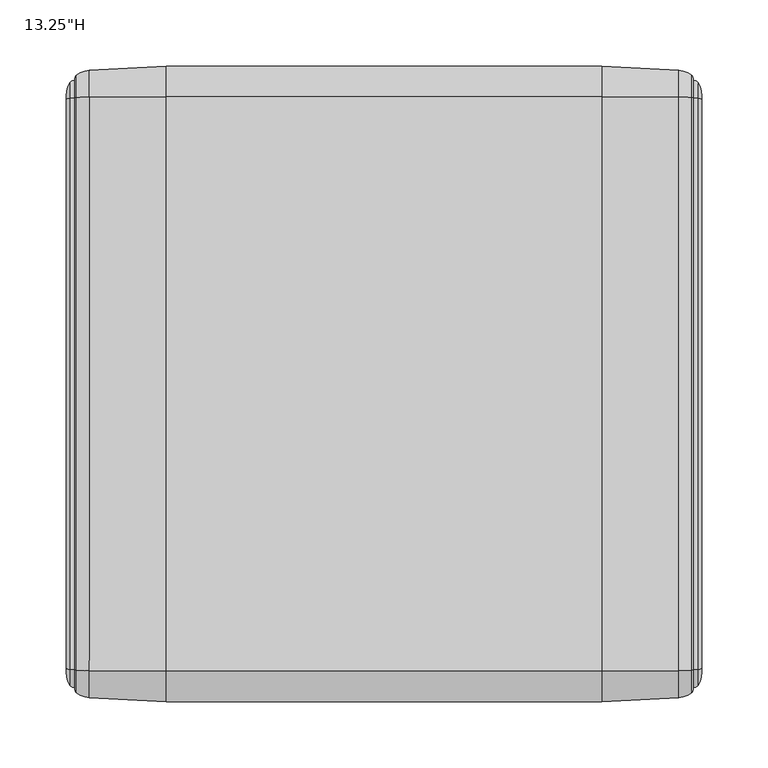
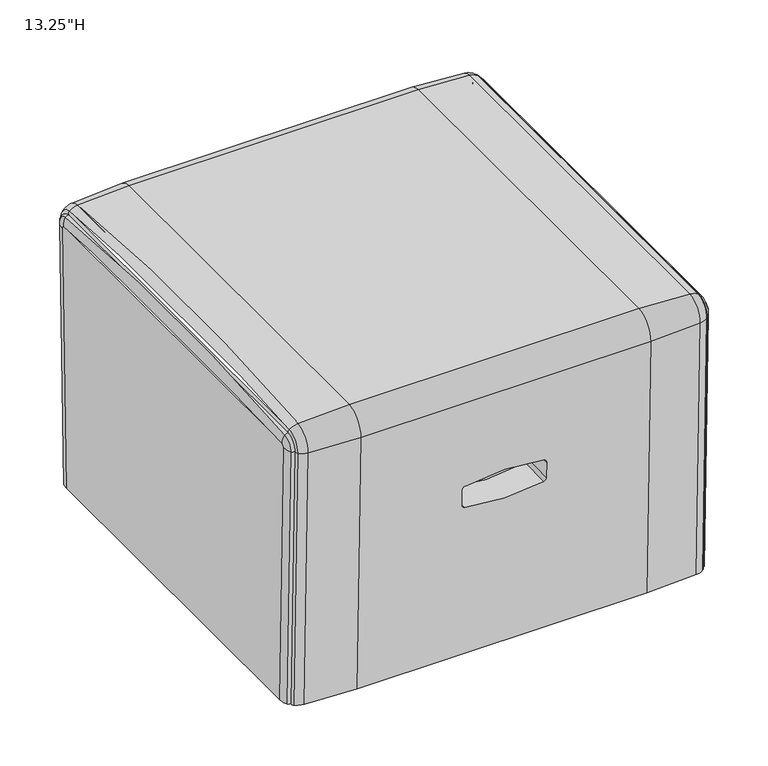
"""IFC4 building model written with IfcOpenShell, lengths in millimetres: furniture geometry."""

from ifc_helpers import new_model, si_unit, point, frame, origin, place, context, project, spatial, polyline, circle_curve, ellipse_curve, trimmed, source, transform, mapped, element, save
from ifc_brep_helpers import plane_surface, cylinder_surface, revolved_surface, advanced_brep


def furniture_3583faa9(model_context):
    return source(origin(), model_context, "Body", "AdvancedBrep", [
        advanced_brep(
        [(163.8587008, -239.1073129, 323.321187), (-163.8587008, -239.1073129, 323.321187), (-163.8587008, -231.2514802, 17.2390594), (163.8587008, -231.2514802, 17.2390594), (44.5276348, -236.492921, 221.4581939), (47.7093439, -236.3925517, 217.5475643), (47.7093439, -235.9314742, 199.5828757), (44.5276348, -235.8311049, 195.6722461), (-44.5276348, -235.8311049, 195.6722461), (-47.7093439, -235.9314742, 199.5828757), (-47.7093439, -236.3925517, 217.5475643), (-44.5276348, -236.492921, 221.4581939), (-222.0087486, -236.1553847, 323.3969505), (-222.0087486, -228.2976074, 17.2390594), (163.8587008, -216.2802814, 349.0833957), (-163.8587008, -216.2802814, 349.0833957), (-222.0087486, -216.0001507, 346.1438128), (163.8587008, 216.2802814, 349.0833957), (-163.8587008, 216.2802814, 349.0833957), (-222.0087486, 216.0001507, 346.1438128), (163.8587008, 239.1073129, 323.321187), (-163.8587008, 239.1073129, 323.321187), (-222.0087486, 236.1553847, 323.3969505), (163.8587008, 231.2514802, 17.2390594), (-163.8587008, 231.2514802, 17.2390594), (-222.0087486, 228.2976074, 17.2390594), (-236.5968433, -226.6966313, 323.6397167), (-239.1289801, -217.2096187, 323.8832082), (-239.1289801, -209.3393613, 17.2390594), (-236.5968433, -218.8326232, 17.2390594), (-236.5968433, -215.1025384, 336.7246174), (-239.1289801, -214.2022444, 327.2772809), (-236.5968433, 215.1025384, 336.7246174), (-239.1289801, 214.2022444, 327.2772809), (-236.5968433, 226.6966313, 323.6397167), (-239.1289801, 217.2096187, 323.8832082), (-236.5968433, 218.8326232, 17.2390594), (-239.1289801, 209.3393613, 17.2390594), (44.5276348, -200.9843019, 222.3695498), (-44.5276348, -200.9843019, 222.3695498), (-47.7093439, -200.8839326, 218.4589203), (-47.7093439, -200.4228551, 200.4942316), (-44.5276348, -200.3224858, 196.5836021), (44.5276348, -200.3224858, 196.5836021), (47.7093439, -200.4228551, 200.4942316), (47.7093439, -200.8839326, 218.4589203), (-231.5440406, -232.4182518, 323.4928669), (-231.5440406, -224.5580128, 17.2390594), (-231.7344658, -227.5040751, 323.618993), (-231.7344658, -219.6405929, 17.2388231), (239.1289801, -217.2096187, 323.8832082), (236.5968433, -226.6966313, 323.6397167), (236.5968433, -218.8326232, 17.2390594), (239.1289801, -209.3393613, 17.2390594), (231.7425975, -227.494867, 323.6192294), (231.7425975, -219.6313909, 17.2392958), (231.5440406, -232.4182518, 323.4928669), (231.5440406, -224.5580128, 17.2390594), (222.0087486, -236.1553847, 323.3969505), (222.0087486, -228.2976074, 17.2390594), (-231.5440406, -215.645506, 342.4223092), (-231.7344658, -215.1791628, 337.5286843), (239.1289801, -214.2022444, 327.2772809), (236.5968433, -215.1025384, 336.7246174), (231.7425975, -215.178289, 337.5195148), (231.5440406, -215.645506, 342.4223092), (222.0087486, -216.0001507, 346.1438128), (-231.5440406, 215.645506, 342.4223092), (-231.7344658, 215.1791628, 337.5286843), (239.1289801, 214.2022444, 327.2772809), (236.5968433, 215.1025384, 336.7246174), (231.7425975, 215.178289, 337.5195148), (231.5440406, 215.645506, 342.4223092), (222.0087486, 216.0001507, 346.1438128), (-231.5440406, 232.4182518, 323.4928669), (-231.7344658, 227.5040751, 323.618993), (239.1289801, 217.2096187, 323.8832082), (236.5968433, 226.6966313, 323.6397167), (231.7425975, 227.494867, 323.6192294), (231.5440406, 232.4182518, 323.4928669), (222.0087486, 236.1553847, 323.3969505), (-231.5440406, 224.5580128, 17.2390594), (-231.7344628, 219.6405963, 17.2390594), (239.1289801, 209.3393613, 17.2390594), (236.5968433, 218.8326232, 17.2390594), (231.7426005, 219.6313875, 17.2390594), (231.5440406, 224.5580128, 17.2390594), (222.0087486, 228.2976074, 17.2390594)],
        [
            (0, 1),
            (1, 2),
            (2, 3),
            (3, 0),
            (4, 5, circle_curve(frame((43.7136345, -236.3925517, 217.5475643), z_axis=(0.0, 0.999670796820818, 0.02565731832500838), x_axis=(0.0, 0.02565731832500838, -0.999670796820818)), 3.9957094)),
            (5, 6),
            (6, 7, circle_curve(frame((43.7136345, -235.9314742, 199.5828757), z_axis=(0.0, 0.999670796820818, 0.02565731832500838), x_axis=(0.0, 0.02565731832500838, -0.999670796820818)), 3.9957094)),
            (7, 8, circle_curve(frame((0.0, -241.3215305, 409.5924247), z_axis=(0.0, 0.999670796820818, 0.02565731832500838), x_axis=(0.0, 0.02565731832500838, -0.999670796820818)), 218.5742387)),
            (8, 9, circle_curve(frame((-43.7136345, -235.9314742, 199.5828757), z_axis=(0.0, 0.999670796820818, 0.02565731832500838), x_axis=(0.0, 0.02565731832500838, -0.999670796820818)), 3.9957094)),
            (9, 10),
            (10, 11, circle_curve(frame((-43.7136345, -236.3925517, 217.5475643), z_axis=(0.0, 0.999670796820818, 0.02565731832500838), x_axis=(0.0, 0.02565731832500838, -0.999670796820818)), 3.9957094)),
            (11, 4, circle_curve(frame((0.0, -231.0024954, 7.5380153), z_axis=(0.0, 0.999670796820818, 0.02565731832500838), x_axis=(0.0, 0.02565731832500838, -0.999670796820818)), 218.5742387)),
            (1, 12, circle_curve(frame((-163.8587008, 334.7406374, 338.0494352), z_axis=(0.0, 0.025657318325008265, -0.999670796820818), x_axis=(0.0, -0.999670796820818, -0.025657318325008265)), 574.0369251)),
            (12, 13),
            (13, 2, ellipse_curve(frame((-163.8587008, 342.974482, 17.2390594), z_axis=(0.0, 0.0, 1.0), x_axis=(0.0, 0.9999999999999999, 0.0)), 574.2259621, 574.0369251)),
            (0, 14, circle_curve(frame((163.8587008, -213.8869293, 323.9684875), z_axis=(-1.0, 0.0, 0.0), x_axis=(0.0, -0.9996707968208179, -0.025657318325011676)), 25.2286889)),
            (14, 15),
            (15, 1, circle_curve(frame((-163.8587008, -213.8869293, 323.9684875), z_axis=(1.0, 0.0, 0.0), x_axis=(0.0, -0.9996707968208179, -0.025657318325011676)), 25.2286889)),
            (15, 16, circle_curve(frame((-163.8587008, -161.8235296, -222.3646366), z_axis=(0.0, -0.9954900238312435, -0.09486628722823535), x_axis=(0.0, -0.09486628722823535, 0.9954900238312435)), 574.0369251)),
            (16, 12, circle_curve(frame((-222.0087486, -213.8869293, 323.9684875), z_axis=(1.0, 0.0, 0.0), x_axis=(0.0, -0.9996707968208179, -0.025657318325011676)), 22.2757886)),
            (14, 17, circle_curve(frame((163.8587008, 0.0, -1920.477992), z_axis=(-1.0, 0.0, 0.0), x_axis=(0.0, -0.09486628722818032, 0.9954900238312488)), 2279.8434272)),
            (17, 18),
            (18, 15, circle_curve(frame((-163.8587008, 0.0, -1920.477992), z_axis=(1.0, 0.0, 0.0), x_axis=(0.0, -0.09486628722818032, 0.9954900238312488)), 2279.8434272)),
            (18, 19, circle_curve(frame((-163.8587008, 161.8235296, -222.3646366), z_axis=(0.0, -0.9954900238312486, 0.09486628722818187), x_axis=(0.0, 0.09486628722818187, 0.9954900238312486)), 574.0369251)),
            (19, 16, circle_curve(frame((-222.0087486, 0.0, -1920.477992), z_axis=(1.0, 0.0, 0.0), x_axis=(0.0, -0.09486628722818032, 0.9954900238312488)), 2276.8905268)),
            (17, 20, circle_curve(frame((163.8587008, 213.8869293, 323.9684875), z_axis=(-1.0, 0.0, 0.0), x_axis=(0.0, 0.09486628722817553, 0.9954900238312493)), 25.2286889)),
            (20, 21),
            (21, 18, circle_curve(frame((-163.8587008, 213.8869293, 323.9684875), z_axis=(1.0, 0.0, 0.0), x_axis=(0.0, 0.09486628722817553, 0.9954900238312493)), 25.2286889)),
            (21, 22, circle_curve(frame((-163.8587008, -334.7406374, 338.0494352), z_axis=(0.0, 0.025657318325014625, 0.9996707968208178), x_axis=(0.0, 0.9996707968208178, -0.025657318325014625)), 574.0369251)),
            (22, 19, circle_curve(frame((-222.0087486, 213.8869293, 323.9684875), z_axis=(1.0, 0.0, 0.0), x_axis=(0.0, 0.09486628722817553, 0.9954900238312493)), 22.2757886)),
            (20, 23),
            (23, 24),
            (24, 21),
            (24, 25, ellipse_curve(frame((-163.8587008, -342.974482, 17.2390594), z_axis=(0.0, 0.0, 1.0), x_axis=(0.0, 1.0, 0.0)), 574.2259621, 574.0369251)),
            (25, 22),
            (26, 27, circle_curve(frame((-220.0789801, -217.2096187, 323.8832082), z_axis=(0.0, 0.025657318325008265, -0.999670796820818), x_axis=(0.0, -0.999670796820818, -0.025657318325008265)), 19.05)),
            (27, 28),
            (28, 29, ellipse_curve(frame((-220.0789801, -209.3393613, 17.2390594), z_axis=(0.0, 0.0, 1.0), x_axis=(0.0, 0.9999999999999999, 0.0)), 19.0562734, 19.05)),
            (29, 26),
            (26, 30, circle_curve(frame((-236.5968433, -213.8869293, 323.9684875), z_axis=(-1.0, 0.0, 0.0), x_axis=(0.0, -0.9996707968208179, -0.025657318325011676)), 12.8139203)),
            (30, 31, circle_curve(frame((-220.0789801, -214.2022444, 327.2772809), z_axis=(0.0, -0.9954900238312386, -0.09486628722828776), x_axis=(0.0, -0.09486628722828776, 0.9954900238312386)), 19.05)),
            (31, 27, circle_curve(frame((-239.1289801, -213.8869293, 323.9684875), z_axis=(1.0, 0.0, 0.0), x_axis=(0.0, -0.9996707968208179, -0.025657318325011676)), 3.3237836)),
            (30, 32, circle_curve(frame((-236.5968433, 0.0, -1920.477992), z_axis=(-1.0, 0.0, 0.0), x_axis=(0.0, -0.09486628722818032, 0.9954900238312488)), 2267.4286585)),
            (32, 33, circle_curve(frame((-220.0789801, 214.2022444, 327.2772809), z_axis=(0.0, -0.9954900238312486, 0.0948662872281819), x_axis=(0.0, 0.0948662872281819, 0.9954900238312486)), 19.05)),
            (33, 31, circle_curve(frame((-239.1289801, 0.0, -1920.477992), z_axis=(1.0, 0.0, 0.0), x_axis=(0.0, -0.09486628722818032, 0.9954900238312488)), 2257.9385218)),
            (32, 34, circle_curve(frame((-236.5968433, 213.8869293, 323.9684875), z_axis=(-1.0, 0.0, 0.0), x_axis=(0.0, 0.09486628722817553, 0.9954900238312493)), 12.8139203)),
            (34, 35, circle_curve(frame((-220.0789801, 217.2096187, 323.8832082), z_axis=(0.0, 0.025657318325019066, 0.9996707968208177), x_axis=(0.0, 0.9996707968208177, -0.025657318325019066)), 19.05)),
            (35, 33, circle_curve(frame((-239.1289801, 213.8869293, 323.9684875), z_axis=(1.0, 0.0, 0.0), x_axis=(0.0, 0.09486628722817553, 0.9954900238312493)), 3.3237836)),
            (34, 36),
            (36, 37, ellipse_curve(frame((-220.0789801, 209.3393613, 17.2390594), z_axis=(0.0, 0.0, 1.0), x_axis=(0.0, 1.0, 0.0)), 19.0562734, 19.05)),
            (37, 35),
            (38, 39, circle_curve(frame((0.0, -195.4938763, 8.4493712), z_axis=(0.0, -0.999670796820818, -0.02565731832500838), x_axis=(0.0, 0.02565731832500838, -0.999670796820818)), 218.5742387)),
            (39, 40, circle_curve(frame((-43.7136345, -200.8839326, 218.4589203), z_axis=(0.0, -0.999670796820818, -0.02565731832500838), x_axis=(0.0, 0.02565731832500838, -0.999670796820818)), 3.9957094)),
            (40, 41),
            (41, 42, circle_curve(frame((-43.7136345, -200.4228551, 200.4942316), z_axis=(0.0, -0.999670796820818, -0.02565731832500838), x_axis=(0.0, 0.02565731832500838, -0.999670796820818)), 3.9957094)),
            (42, 43, circle_curve(frame((0.0, -205.8129114, 410.5037807), z_axis=(0.0, -0.999670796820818, -0.02565731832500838), x_axis=(0.0, 0.02565731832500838, -0.999670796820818)), 218.5742387)),
            (43, 44, circle_curve(frame((43.7136345, -200.4228551, 200.4942316), z_axis=(0.0, -0.999670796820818, -0.02565731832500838), x_axis=(0.0, 0.02565731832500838, -0.999670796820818)), 3.9957094)),
            (44, 45),
            (45, 38, circle_curve(frame((43.7136345, -200.8839326, 218.4589203), z_axis=(0.0, -0.999670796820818, -0.02565731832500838), x_axis=(0.0, 0.02565731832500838, -0.999670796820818)), 3.9957094)),
            (45, 5),
            (4, 38),
            (44, 6),
            (43, 7),
            (42, 8),
            (41, 9),
            (40, 10),
            (39, 11),
            (12, 46, circle_curve(frame((-220.0789801, -217.2096187, 323.8832082), z_axis=(0.0, 0.025657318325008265, -0.999670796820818), x_axis=(0.0, -0.999670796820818, -0.025657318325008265)), 19.05)),
            (46, 47),
            (47, 13, ellipse_curve(frame((-220.0789801, -209.3393613, 17.2390594), z_axis=(0.0, 0.0, 1.0), x_axis=(0.0, 0.9999999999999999, 0.0)), 19.0562734, 19.05)),
            (46, 48, circle_curve(frame((-229.6331972, -229.8834796, 323.5579238), z_axis=(0.0, 0.025657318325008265, -0.999670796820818), x_axis=(0.0, -0.999670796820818, -0.025657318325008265)), 3.175)),
            (48, 49),
            (49, 47, ellipse_curve(frame((-229.6331972, -222.0215708, 17.2390594), z_axis=(0.0, 0.0, 1.0), x_axis=(0.0, 0.9999999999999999, 0.0)), 3.1760456, 3.175)),
            (48, 26, circle_curve(frame((-233.8438661, -225.1154625, 323.6802986), z_axis=(0.0, 0.025657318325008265, -0.999670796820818), x_axis=(0.0, -0.999670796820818, -0.025657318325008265)), 3.175)),
            (29, 49, ellipse_curve(frame((-233.8438661, -217.2504129, 17.2390594), z_axis=(0.0, 0.0, 1.0), x_axis=(0.0, 0.9999999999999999, 0.0)), 3.1760456, 3.175)),
            (50, 51, circle_curve(frame((220.0789801, -217.2096187, 323.8832082), z_axis=(0.0, 0.025657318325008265, -0.999670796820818), x_axis=(0.0, -0.999670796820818, -0.025657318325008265)), 19.05)),
            (51, 52),
            (52, 53, ellipse_curve(frame((220.0789801, -209.3393613, 17.2390594), z_axis=(0.0, 0.0, 1.0), x_axis=(0.0, 0.9999999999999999, 0.0)), 19.0562734, 19.05)),
            (53, 50),
            (51, 54, circle_curve(frame((233.8438661, -225.1154625, 323.6802986), z_axis=(0.0, 0.025657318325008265, -0.999670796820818), x_axis=(0.0, -0.999670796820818, -0.025657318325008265)), 3.175)),
            (54, 55),
            (55, 52, ellipse_curve(frame((233.8438661, -217.2504129, 17.2390594), z_axis=(0.0, 0.0, 1.0), x_axis=(0.0, 0.9999999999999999, 0.0)), 3.1760456, 3.175)),
            (54, 56, circle_curve(frame((229.6331972, -229.8834796, 323.5579238), z_axis=(0.0, 0.025657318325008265, -0.999670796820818), x_axis=(0.0, -0.999670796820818, -0.025657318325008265)), 3.175)),
            (56, 57),
            (57, 55, ellipse_curve(frame((229.6331972, -222.0215708, 17.2390594), z_axis=(0.0, 0.0, 1.0), x_axis=(0.0, 0.9999999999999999, 0.0)), 3.1760456, 3.175)),
            (56, 58, circle_curve(frame((220.0789801, -217.2096187, 323.8832082), z_axis=(0.0, 0.025657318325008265, -0.999670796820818), x_axis=(0.0, -0.999670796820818, -0.025657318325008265)), 19.05)),
            (58, 59),
            (59, 57, ellipse_curve(frame((220.0789801, -209.3393613, 17.2390594), z_axis=(0.0, 0.0, 1.0), x_axis=(0.0, 0.9999999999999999, 0.0)), 19.0562734, 19.05)),
            (58, 0, circle_curve(frame((163.8587008, 334.7406374, 338.0494352), z_axis=(0.0, 0.025657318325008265, -0.999670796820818), x_axis=(0.0, -0.999670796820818, -0.025657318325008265)), 574.0369251)),
            (3, 59, ellipse_curve(frame((163.8587008, 342.974482, 17.2390594), z_axis=(0.0, 0.0, 1.0), x_axis=(0.0, 0.9999999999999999, 0.0)), 574.2259621, 574.0369251)),
            (16, 60, circle_curve(frame((-220.0789801, -214.2022444, 327.2772809), z_axis=(0.0, -0.9954900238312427, -0.09486628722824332), x_axis=(0.0, -0.09486628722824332, 0.9954900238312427)), 19.05)),
            (60, 46, circle_curve(frame((-231.5440406, -213.8869293, 323.9684875), z_axis=(1.0, 0.0, 0.0), x_axis=(0.0, -0.9996707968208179, -0.025657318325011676)), 18.537425)),
            (60, 61, circle_curve(frame((-229.6331972, -215.4049624, 339.8981378), z_axis=(0.0, -0.9954900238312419, -0.09486628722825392), x_axis=(0.0, -0.09486628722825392, 0.9954900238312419)), 3.175)),
            (61, 48, circle_curve(frame((-231.7344658, -213.8869293, 323.9684875), z_axis=(1.0, 0.0, 0.0), x_axis=(0.0, -0.9996707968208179, -0.025657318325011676)), 13.62163)),
            (61, 30, circle_curve(frame((-233.8438661, -214.9524894, 335.1500613), z_axis=(0.0, -0.9954900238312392, -0.09486628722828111), x_axis=(0.0, -0.09486628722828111, 0.9954900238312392)), 3.175)),
            (50, 62, circle_curve(frame((239.1289801, -213.8869293, 323.9684875), z_axis=(-1.0, 0.0, 0.0), x_axis=(0.0, -0.9996707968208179, -0.025657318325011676)), 3.3237836)),
            (62, 63, circle_curve(frame((220.0789801, -214.2022444, 327.2772809), z_axis=(0.0, -0.9954900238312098, -0.09486628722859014), x_axis=(0.0, -0.09486628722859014, 0.9954900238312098)), 19.05)),
            (63, 51, circle_curve(frame((236.5968433, -213.8869293, 323.9684875), z_axis=(1.0, 0.0, 0.0), x_axis=(0.0, -0.9996707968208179, -0.025657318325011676)), 12.8139203)),
            (63, 64, circle_curve(frame((233.8438661, -214.9524894, 335.1500613), z_axis=(0.0, -0.9954900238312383, -0.09486628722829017), x_axis=(0.0, -0.09486628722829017, 0.9954900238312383)), 3.175)),
            (64, 54, circle_curve(frame((231.7425975, -213.8869293, 323.9684875), z_axis=(1.0, 0.0, 0.0), x_axis=(0.0, -0.9996707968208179, -0.025657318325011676)), 13.6124189)),
            (64, 65, circle_curve(frame((229.6331972, -215.4049624, 339.8981378), z_axis=(0.0, -0.995490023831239, -0.09486628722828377), x_axis=(0.0, -0.09486628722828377, 0.995490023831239)), 3.175)),
            (65, 56, circle_curve(frame((231.5440406, -213.8869293, 323.9684875), z_axis=(1.0, 0.0, 0.0), x_axis=(0.0, -0.9996707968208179, -0.025657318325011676)), 18.537425)),
            (65, 66, circle_curve(frame((220.0789801, -214.2022444, 327.2772809), z_axis=(0.0, -0.9954900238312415, -0.09486628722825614), x_axis=(0.0, -0.09486628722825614, 0.9954900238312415)), 19.05)),
            (66, 58, circle_curve(frame((222.0087486, -213.8869293, 323.9684875), z_axis=(1.0, 0.0, 0.0), x_axis=(0.0, -0.9996707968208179, -0.025657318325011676)), 22.2757886)),
            (66, 14, circle_curve(frame((163.8587008, -161.8235296, -222.3646366), z_axis=(0.0, -0.9954900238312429, -0.09486628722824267), x_axis=(0.0, -0.09486628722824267, 0.9954900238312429)), 574.0369251)),
            (19, 67, circle_curve(frame((-220.0789801, 214.2022444, 327.2772809), z_axis=(0.0, -0.9954900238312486, 0.0948662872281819), x_axis=(0.0, 0.0948662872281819, 0.9954900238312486)), 19.05)),
            (67, 60, circle_curve(frame((-231.5440406, 0.0, -1920.477992), z_axis=(1.0, 0.0, 0.0), x_axis=(0.0, -0.09486628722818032, 0.9954900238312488)), 2273.1521633)),
            (67, 68, circle_curve(frame((-229.6331972, 215.4049624, 339.8981378), z_axis=(0.0, -0.9954900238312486, 0.09486628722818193), x_axis=(0.0, 0.09486628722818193, 0.9954900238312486)), 3.175)),
            (68, 61, circle_curve(frame((-231.7344658, 0.0, -1920.477992), z_axis=(1.0, 0.0, 0.0), x_axis=(0.0, -0.09486628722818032, 0.9954900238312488)), 2268.2363683)),
            (68, 32, circle_curve(frame((-233.8438661, 214.9524894, 335.1500613), z_axis=(0.0, -0.9954900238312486, 0.09486628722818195), x_axis=(0.0, 0.09486628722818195, 0.9954900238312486)), 3.175)),
            (62, 69, circle_curve(frame((239.1289801, 0.0, -1920.477992), z_axis=(-1.0, 0.0, 0.0), x_axis=(0.0, -0.09486628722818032, 0.9954900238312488)), 2257.9385218)),
            (69, 70, circle_curve(frame((220.0789801, 214.2022444, 327.2772809), z_axis=(0.0, -0.9954900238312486, 0.09486628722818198), x_axis=(0.0, 0.09486628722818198, 0.9954900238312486)), 19.05)),
            (70, 63, circle_curve(frame((236.5968433, 0.0, -1920.477992), z_axis=(1.0, 0.0, 0.0), x_axis=(0.0, -0.09486628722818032, 0.9954900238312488)), 2267.4286585)),
            (70, 71, circle_curve(frame((233.8438661, 214.9524894, 335.1500613), z_axis=(0.0, -0.9954900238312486, 0.09486628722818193), x_axis=(0.0, 0.09486628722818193, 0.9954900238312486)), 3.175)),
            (71, 64, circle_curve(frame((231.7425975, 0.0, -1920.477992), z_axis=(1.0, 0.0, 0.0), x_axis=(0.0, -0.09486628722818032, 0.9954900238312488)), 2268.2271572)),
            (71, 72, circle_curve(frame((229.6331972, 215.4049624, 339.8981378), z_axis=(0.0, -0.9954900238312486, 0.09486628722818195), x_axis=(0.0, 0.09486628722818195, 0.9954900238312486)), 3.175)),
            (72, 65, circle_curve(frame((231.5440406, 0.0, -1920.477992), z_axis=(1.0, 0.0, 0.0), x_axis=(0.0, -0.09486628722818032, 0.9954900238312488)), 2273.1521633)),
            (72, 73, circle_curve(frame((220.0789801, 214.2022444, 327.2772809), z_axis=(0.0, -0.9954900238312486, 0.09486628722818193), x_axis=(0.0, 0.09486628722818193, 0.9954900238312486)), 19.05)),
            (73, 66, circle_curve(frame((222.0087486, 0.0, -1920.477992), z_axis=(1.0, 0.0, 0.0), x_axis=(0.0, -0.09486628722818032, 0.9954900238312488)), 2276.8905268)),
            (73, 17, circle_curve(frame((163.8587008, 161.8235296, -222.3646366), z_axis=(0.0, -0.9954900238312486, 0.09486628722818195), x_axis=(0.0, 0.09486628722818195, 0.9954900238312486)), 574.0369251)),
            (22, 74, circle_curve(frame((-220.0789801, 217.2096187, 323.8832082), z_axis=(0.0, 0.02565731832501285, 0.9996707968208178), x_axis=(0.0, 0.9996707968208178, -0.02565731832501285)), 19.05)),
            (74, 67, circle_curve(frame((-231.5440406, 213.8869293, 323.9684875), z_axis=(1.0, 0.0, 0.0), x_axis=(0.0, 0.09486628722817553, 0.9954900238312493)), 18.537425)),
            (74, 75, circle_curve(frame((-229.6331972, 229.8834796, 323.5579238), z_axis=(0.0, 0.025657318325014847, 0.9996707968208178), x_axis=(0.0, 0.9996707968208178, -0.025657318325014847)), 3.175)),
            (75, 68, circle_curve(frame((-231.7344658, 213.8869293, 323.9684875), z_axis=(1.0, 0.0, 0.0), x_axis=(0.0, 0.09486628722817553, 0.9954900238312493)), 13.62163)),
            (75, 34, circle_curve(frame((-233.8438661, 225.1154625, 323.6802986), z_axis=(0.0, 0.025657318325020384, 0.9996707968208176), x_axis=(0.0, 0.9996707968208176, -0.025657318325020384)), 3.175)),
            (69, 76, circle_curve(frame((239.1289801, 213.8869293, 323.9684875), z_axis=(-1.0, 0.0, 0.0), x_axis=(0.0, 0.09486628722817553, 0.9954900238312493)), 3.3237836)),
            (76, 77, circle_curve(frame((220.0789801, 217.2096187, 323.8832082), z_axis=(0.0, 0.025657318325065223, 0.9996707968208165), x_axis=(0.0, 0.9996707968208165, -0.025657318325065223)), 19.05)),
            (77, 70, circle_curve(frame((236.5968433, 213.8869293, 323.9684875), z_axis=(1.0, 0.0, 0.0), x_axis=(0.0, 0.09486628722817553, 0.9954900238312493)), 12.8139203)),
            (77, 78, circle_curve(frame((233.8438661, 225.1154625, 323.6802986), z_axis=(0.0, 0.02565731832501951, 0.9996707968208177), x_axis=(0.0, 0.9996707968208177, -0.02565731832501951)), 3.175)),
            (78, 71, circle_curve(frame((231.7425975, 213.8869293, 323.9684875), z_axis=(1.0, 0.0, 0.0), x_axis=(0.0, 0.09486628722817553, 0.9954900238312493)), 13.6124189)),
            (78, 79, circle_curve(frame((229.6331972, 229.8834796, 323.5579238), z_axis=(0.0, 0.025657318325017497, 0.9996707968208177), x_axis=(0.0, 0.9996707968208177, -0.025657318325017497)), 3.175)),
            (79, 72, circle_curve(frame((231.5440406, 213.8869293, 323.9684875), z_axis=(1.0, 0.0, 0.0), x_axis=(0.0, 0.09486628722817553, 0.9954900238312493)), 18.537425)),
            (79, 80, circle_curve(frame((220.0789801, 217.2096187, 323.8832082), z_axis=(0.0, 0.02565731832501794, 0.9996707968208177), x_axis=(0.0, 0.9996707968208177, -0.02565731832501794)), 19.05)),
            (80, 73, circle_curve(frame((222.0087486, 213.8869293, 323.9684875), z_axis=(1.0, 0.0, 0.0), x_axis=(0.0, 0.09486628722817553, 0.9954900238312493)), 22.2757886)),
            (80, 20, circle_curve(frame((163.8587008, -334.7406374, 338.0494352), z_axis=(0.0, 0.025657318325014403, 0.9996707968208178), x_axis=(0.0, 0.9996707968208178, -0.025657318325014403)), 574.0369251)),
            (25, 81, ellipse_curve(frame((-220.0789801, 209.3393613, 17.2390594), z_axis=(0.0, 0.0, 1.0), x_axis=(0.0, 1.0, 0.0)), 19.0562734, 19.05)),
            (81, 74),
            (81, 82, ellipse_curve(frame((-229.6331972, 222.0215708, 17.2390594), z_axis=(0.0, 0.0, 1.0), x_axis=(0.0, 1.0, 0.0)), 3.1760456, 3.175)),
            (82, 75),
            (82, 36, ellipse_curve(frame((-233.8438661, 217.2504129, 17.2390594), z_axis=(0.0, 0.0, 1.0), x_axis=(0.0, 1.0, 0.0)), 3.1760456, 3.175)),
            (76, 83),
            (83, 84, ellipse_curve(frame((220.0789801, 209.3393613, 17.2390594), z_axis=(0.0, 0.0, 1.0), x_axis=(0.0, 1.0, 0.0)), 19.0562734, 19.05)),
            (84, 77),
            (84, 85, ellipse_curve(frame((233.8438661, 217.2504129, 17.2390594), z_axis=(0.0, 0.0, 1.0), x_axis=(0.0, 1.0, 0.0)), 3.1760456, 3.175)),
            (85, 78),
            (85, 86, ellipse_curve(frame((229.6331972, 222.0215708, 17.2390594), z_axis=(0.0, 0.0, 1.0), x_axis=(0.0, 1.0, 0.0)), 3.1760456, 3.175)),
            (86, 79),
            (86, 87, ellipse_curve(frame((220.0789801, 209.3393613, 17.2390594), z_axis=(0.0, 0.0, 1.0), x_axis=(0.0, 1.0, 0.0)), 19.0562734, 19.05)),
            (87, 80),
            (87, 23, ellipse_curve(frame((163.8587008, -342.974482, 17.2390594), z_axis=(0.0, 0.0, 1.0), x_axis=(0.0, 1.0, 0.0)), 574.2259621, 574.0369251)),
            (28, 37),
            (83, 53),
        ],
        [
            plane_surface(frame((163.8587008, -231.2370555, 16.6770383), z_axis=(0.0, -0.999670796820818, -0.02565731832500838), x_axis=(0.0, -0.02565731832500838, 0.999670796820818))),
            cylinder_surface(frame((-163.8587008, 342.6108949, 31.4052864), z_axis=(0.0, 0.025657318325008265, -0.999670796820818), x_axis=(0.0, -0.999670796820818, -0.025657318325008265)), 574.0369251),
            cylinder_surface(frame((0.0, -213.8869293, 323.9684875), z_axis=(-1.0, 0.0, 0.0), x_axis=(0.0, -0.9996707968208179, -0.025657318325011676)), 25.2286889),
            revolved_surface(trimmed(ellipse_curve(frame((-163.8587008, 334.7406374, 338.0494352), z_axis=(0.0, 0.025657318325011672, -0.9996707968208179), x_axis=(0.0, -0.9996707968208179, -0.025657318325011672)), 574.0369251, 574.0369251), [point((-163.8587008, -239.1073129, 323.321187))], [point((-222.0087486, -236.1553847, 323.3969505))], True, "CARTESIAN"), (0.0, -213.8869293, 323.9684875), (-1.0, 0.0, 0.0)),
            cylinder_surface(frame((0.0, 0.0, -1920.477992), z_axis=(-1.0, 0.0, 0.0), x_axis=(0.0, -0.09486628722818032, 0.9954900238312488)), 2279.8434272),
            revolved_surface(trimmed(ellipse_curve(frame((-163.8587008, -161.8235296, -222.3646366), z_axis=(0.0, -0.9954900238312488, -0.09486628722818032), x_axis=(0.0, -0.09486628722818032, 0.9954900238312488)), 574.0369251, 574.0369251), [point((-163.8587008, -216.2802814, 349.0833957))], [point((-222.0087486, -216.0001507, 346.1438128))], True, "CARTESIAN"), (0.0, 0.0, -1920.477992), (-1.0, 0.0, 0.0)),
            cylinder_surface(frame((0.0, 213.8869293, 323.9684875), z_axis=(-1.0, 0.0, 0.0), x_axis=(0.0, 0.09486628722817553, 0.9954900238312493)), 25.2286889),
            revolved_surface(trimmed(ellipse_curve(frame((-163.8587008, 161.8235296, -222.3646366), z_axis=(0.0, -0.9954900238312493, 0.09486628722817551), x_axis=(0.0, 0.09486628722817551, 0.9954900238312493)), 574.0369251, 574.0369251), [point((-163.8587008, 216.2802814, 349.0833957))], [point((-222.0087486, 216.0001507, 346.1438128))], True, "CARTESIAN"), (0.0, 213.8869293, 323.9684875), (-1.0, 0.0, 0.0)),
            plane_surface(frame((163.8587008, 239.1073129, 323.321187), z_axis=(0.0, 0.9996707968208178, -0.025657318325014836), x_axis=(0.0, -0.025657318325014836, -0.9996707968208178))),
            cylinder_surface(frame((-163.8587008, -334.7406374, 338.0494352), z_axis=(0.0, 0.025657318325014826, 0.9996707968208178), x_axis=(0.0, 0.9996707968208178, -0.025657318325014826)), 574.0369251),
            cylinder_surface(frame((-220.0789801, -209.3393613, 17.2390594), z_axis=(0.0, 0.025657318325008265, -0.999670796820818), x_axis=(0.0, -0.999670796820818, -0.025657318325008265)), 19.05),
            revolved_surface(trimmed(ellipse_curve(frame((-220.0789801, -217.2096187, 323.8832082), z_axis=(0.0, 0.025657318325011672, -0.9996707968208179), x_axis=(0.0, -0.9996707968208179, -0.025657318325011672)), 19.05, 19.05), [point((-236.5968433, -226.6966313, 323.6397167))], [point((-239.1289801, -217.2096187, 323.8832082))], True, "CARTESIAN"), (0.0, -213.8869293, 323.9684875), (-1.0, 0.0, 0.0)),
            revolved_surface(trimmed(ellipse_curve(frame((-220.0789801, -214.2022444, 327.2772809), z_axis=(0.0, -0.9954900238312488, -0.09486628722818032), x_axis=(0.0, -0.09486628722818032, 0.9954900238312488)), 19.05, 19.05), [point((-236.5968433, -215.1025384, 336.7246174))], [point((-239.1289801, -214.2022444, 327.2772809))], True, "CARTESIAN"), (0.0, 0.0, -1920.477992), (-1.0, 0.0, 0.0)),
            revolved_surface(trimmed(ellipse_curve(frame((-220.0789801, 214.2022444, 327.2772809), z_axis=(0.0, -0.9954900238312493, 0.09486628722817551), x_axis=(0.0, 0.09486628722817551, 0.9954900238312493)), 19.05, 19.05), [point((-236.5968433, 215.1025384, 336.7246174))], [point((-239.1289801, 214.2022444, 327.2772809))], True, "CARTESIAN"), (0.0, 213.8869293, 323.9684875), (-1.0, 0.0, 0.0)),
            cylinder_surface(frame((-220.0789801, 217.2096187, 323.8832082), z_axis=(0.0, 0.025657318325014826, 0.9996707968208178), x_axis=(0.0, 0.9996707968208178, -0.025657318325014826)), 19.05),
            plane_surface(frame((43.7136345, -200.7814134, 214.4645263), z_axis=(0.0, -0.999670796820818, -0.02565731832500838), x_axis=(-1.0, 0.0, 0.0))),
            revolved_surface(polyline([(43.7136345, -200.78141340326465, 214.46452626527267), (43.7136345, -236.29003251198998, 213.55317030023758)]), (43.7136345, -236.3925517, 217.5475643), (0.0, 0.999670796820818, 0.02565731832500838)),
            plane_surface(frame((47.7093439, -200.8839326, 218.4589203), z_axis=(-1.0000000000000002, 0.0, 0.0), x_axis=(0.0, -0.999670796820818, -0.02565731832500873))),
            revolved_surface(polyline([(43.7136345, -200.3203359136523, 196.49983766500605), (43.7136345, -235.8289550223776, 195.58848169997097)]), (43.7136345, -235.9314742, 199.5828757), (0.0, 0.999670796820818, 0.02565731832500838)),
            revolved_surface(polyline([(0.0, -200.20488256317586, 192.00149729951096), (0.0, -235.71350168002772, 191.0901413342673)]), (0.0, -241.3215305, 409.5924247), (0.0, 0.999670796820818, 0.02565731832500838)),
            revolved_surface(polyline([(-43.7136345, -200.3203359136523, 196.49983766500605), (-43.7136345, -235.8289550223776, 195.58848169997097)]), (-43.7136345, -235.9314742, 199.5828757), (0.0, 0.999670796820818, 0.02565731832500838)),
            plane_surface(frame((-47.7093439, -200.4228551, 200.4942316), z_axis=(1.0000000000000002, 0.0, 0.0), x_axis=(0.0, -0.999670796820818, -0.02565731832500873))),
            revolved_surface(polyline([(-43.7136345, -200.78141340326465, 214.46452626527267), (-43.7136345, -236.29003251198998, 213.55317030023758)]), (-43.7136345, -236.3925517, 217.5475643), (0.0, 0.999670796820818, 0.02565731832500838)),
            revolved_surface(polyline([(0.0, -189.88584748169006, -210.0529121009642), (0.0, -225.39446659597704, -210.96426806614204)]), (0.0, -231.0024954, 7.5380153), (0.0, 0.999670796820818, 0.02565731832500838)),
            cylinder_surface(frame((-229.6331972, -222.0132222, 16.9137751), z_axis=(0.0, 0.025657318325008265, -0.999670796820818), x_axis=(0.0, -0.999670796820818, -0.025657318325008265)), 3.175),
            cylinder_surface(frame((-233.8438661, -217.2452051, 17.0361499), z_axis=(0.0, 0.025657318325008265, -0.999670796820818), x_axis=(0.0, -0.999670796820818, -0.025657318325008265)), 3.175),
            cylinder_surface(frame((220.0789801, -209.3393613, 17.2390594), z_axis=(0.0, 0.025657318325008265, -0.999670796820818), x_axis=(0.0, -0.999670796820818, -0.025657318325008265)), 19.05),
            cylinder_surface(frame((233.8438661, -217.2452051, 17.0361499), z_axis=(0.0, 0.025657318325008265, -0.999670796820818), x_axis=(0.0, -0.999670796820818, -0.025657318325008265)), 3.175),
            cylinder_surface(frame((229.6331972, -222.0132222, 16.9137751), z_axis=(0.0, 0.025657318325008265, -0.999670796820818), x_axis=(0.0, -0.999670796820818, -0.025657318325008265)), 3.175),
            cylinder_surface(frame((163.8587008, 342.6108949, 31.4052864), z_axis=(0.0, 0.025657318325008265, -0.999670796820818), x_axis=(0.0, -0.999670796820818, -0.025657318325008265)), 574.0369251),
            revolved_surface(trimmed(ellipse_curve(frame((-220.0789801, -217.2096187, 323.8832082), z_axis=(0.0, 0.025657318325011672, -0.9996707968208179), x_axis=(0.0, -0.9996707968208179, -0.025657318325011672)), 19.05, 19.05), [point((-222.0087486, -236.1553847, 323.3969505))], [point((-231.5440406, -232.4182518, 323.4928669))], True, "CARTESIAN"), (0.0, -213.8869293, 323.9684875), (-1.0, 0.0, 0.0)),
            revolved_surface(trimmed(ellipse_curve(frame((-229.6331972, -229.8834796, 323.5579238), z_axis=(0.0, 0.025657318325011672, -0.9996707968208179), x_axis=(0.0, -0.9996707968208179, -0.025657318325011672)), 3.175, 3.175), [point((-231.5440406, -232.4182518, 323.4928669))], [point((-231.7344658, -227.5040751, 323.618993))], True, "CARTESIAN"), (0.0, -213.8869293, 323.9684875), (-1.0, 0.0, 0.0)),
            revolved_surface(trimmed(ellipse_curve(frame((-233.8438661, -225.1154625, 323.6802986), z_axis=(0.0, 0.025657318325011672, -0.9996707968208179), x_axis=(0.0, -0.9996707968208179, -0.025657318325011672)), 3.175, 3.175), [point((-231.7425975, -227.494867, 323.6192294))], [point((-236.5968433, -226.6966313, 323.6397167))], True, "CARTESIAN"), (0.0, -213.8869293, 323.9684875), (-1.0, 0.0, 0.0)),
            revolved_surface(trimmed(ellipse_curve(frame((220.0789801, -217.2096187, 323.8832082), z_axis=(0.0, 0.025657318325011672, -0.9996707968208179), x_axis=(0.0, -0.9996707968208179, -0.025657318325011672)), 19.05, 19.05), [point((239.1289801, -217.2096187, 323.8832082))], [point((236.5968433, -226.6966313, 323.6397167))], True, "CARTESIAN"), (0.0, -213.8869293, 323.9684875), (-1.0, 0.0, 0.0)),
            revolved_surface(trimmed(ellipse_curve(frame((233.8438661, -225.1154625, 323.6802986), z_axis=(0.0, 0.025657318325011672, -0.9996707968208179), x_axis=(0.0, -0.9996707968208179, -0.025657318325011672)), 3.175, 3.175), [point((236.5968433, -226.6966313, 323.6397167))], [point((231.7425975, -227.494867, 323.6192294))], True, "CARTESIAN"), (0.0, -213.8869293, 323.9684875), (-1.0, 0.0, 0.0)),
            revolved_surface(trimmed(ellipse_curve(frame((229.6331972, -229.8834796, 323.5579238), z_axis=(0.0, 0.025657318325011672, -0.9996707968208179), x_axis=(0.0, -0.9996707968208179, -0.025657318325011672)), 3.175, 3.175), [point((231.7344658, -227.5040751, 323.618993))], [point((231.5440406, -232.4182518, 323.4928669))], True, "CARTESIAN"), (0.0, -213.8869293, 323.9684875), (-1.0, 0.0, 0.0)),
            revolved_surface(trimmed(ellipse_curve(frame((220.0789801, -217.2096187, 323.8832082), z_axis=(0.0, 0.025657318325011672, -0.9996707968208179), x_axis=(0.0, -0.9996707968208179, -0.025657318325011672)), 19.05, 19.05), [point((231.5440406, -232.4182518, 323.4928669))], [point((222.0087486, -236.1553847, 323.3969505))], True, "CARTESIAN"), (0.0, -213.8869293, 323.9684875), (-1.0, 0.0, 0.0)),
            revolved_surface(trimmed(ellipse_curve(frame((163.8587008, 334.7406374, 338.0494352), z_axis=(0.0, 0.025657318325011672, -0.9996707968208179), x_axis=(0.0, -0.9996707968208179, -0.025657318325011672)), 574.0369251, 574.0369251), [point((222.0087486, -236.1553847, 323.3969505))], [point((163.8587008, -239.1073129, 323.321187))], True, "CARTESIAN"), (0.0, -213.8869293, 323.9684875), (-1.0, 0.0, 0.0)),
            revolved_surface(trimmed(ellipse_curve(frame((-220.0789801, -214.2022444, 327.2772809), z_axis=(0.0, -0.9954900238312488, -0.09486628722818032), x_axis=(0.0, -0.09486628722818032, 0.9954900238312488)), 19.05, 19.05), [point((-222.0087486, -216.0001507, 346.1438128))], [point((-231.5440406, -215.645506, 342.4223092))], True, "CARTESIAN"), (0.0, 0.0, -1920.477992), (-1.0, 0.0, 0.0)),
            revolved_surface(trimmed(ellipse_curve(frame((-229.6331972, -215.4049624, 339.8981378), z_axis=(0.0, -0.9954900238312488, -0.09486628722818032), x_axis=(0.0, -0.09486628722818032, 0.9954900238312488)), 3.175, 3.175), [point((-231.5440406, -215.645506, 342.4223092))], [point((-231.7344658, -215.1791628, 337.5286843))], True, "CARTESIAN"), (0.0, 0.0, -1920.477992), (-1.0, 0.0, 0.0)),
            revolved_surface(trimmed(ellipse_curve(frame((-233.8438661, -214.9524894, 335.1500613), z_axis=(0.0, -0.9954900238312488, -0.09486628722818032), x_axis=(0.0, -0.09486628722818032, 0.9954900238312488)), 3.175, 3.175), [point((-231.7425975, -215.178289, 337.5195148))], [point((-236.5968433, -215.1025384, 336.7246174))], True, "CARTESIAN"), (0.0, 0.0, -1920.477992), (-1.0, 0.0, 0.0)),
            revolved_surface(trimmed(ellipse_curve(frame((220.0789801, -214.2022444, 327.2772809), z_axis=(0.0, -0.9954900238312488, -0.09486628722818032), x_axis=(0.0, -0.09486628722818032, 0.9954900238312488)), 19.05, 19.05), [point((239.1289801, -214.2022444, 327.2772809))], [point((236.5968433, -215.1025384, 336.7246174))], True, "CARTESIAN"), (0.0, 0.0, -1920.477992), (-1.0, 0.0, 0.0)),
            revolved_surface(trimmed(ellipse_curve(frame((233.8438661, -214.9524894, 335.1500613), z_axis=(0.0, -0.9954900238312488, -0.09486628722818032), x_axis=(0.0, -0.09486628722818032, 0.9954900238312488)), 3.175, 3.175), [point((236.5968433, -215.1025384, 336.7246174))], [point((231.7425975, -215.178289, 337.5195148))], True, "CARTESIAN"), (0.0, 0.0, -1920.477992), (-1.0, 0.0, 0.0)),
            revolved_surface(trimmed(ellipse_curve(frame((229.6331972, -215.4049624, 339.8981378), z_axis=(0.0, -0.9954900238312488, -0.09486628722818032), x_axis=(0.0, -0.09486628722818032, 0.9954900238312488)), 3.175, 3.175), [point((231.7344658, -215.1791628, 337.5286843))], [point((231.5440406, -215.645506, 342.4223092))], True, "CARTESIAN"), (0.0, 0.0, -1920.477992), (-1.0, 0.0, 0.0)),
            revolved_surface(trimmed(ellipse_curve(frame((220.0789801, -214.2022444, 327.2772809), z_axis=(0.0, -0.9954900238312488, -0.09486628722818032), x_axis=(0.0, -0.09486628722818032, 0.9954900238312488)), 19.05, 19.05), [point((231.5440406, -215.645506, 342.4223092))], [point((222.0087486, -216.0001507, 346.1438128))], True, "CARTESIAN"), (0.0, 0.0, -1920.477992), (-1.0, 0.0, 0.0)),
            revolved_surface(trimmed(ellipse_curve(frame((163.8587008, -161.8235296, -222.3646366), z_axis=(0.0, -0.9954900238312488, -0.09486628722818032), x_axis=(0.0, -0.09486628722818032, 0.9954900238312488)), 574.0369251, 574.0369251), [point((222.0087486, -216.0001507, 346.1438128))], [point((163.8587008, -216.2802814, 349.0833957))], True, "CARTESIAN"), (0.0, 0.0, -1920.477992), (-1.0, 0.0, 0.0)),
            revolved_surface(trimmed(ellipse_curve(frame((-220.0789801, 214.2022444, 327.2772809), z_axis=(0.0, -0.9954900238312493, 0.09486628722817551), x_axis=(0.0, 0.09486628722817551, 0.9954900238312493)), 19.05, 19.05), [point((-222.0087486, 216.0001507, 346.1438128))], [point((-231.5440406, 215.645506, 342.4223092))], True, "CARTESIAN"), (0.0, 213.8869293, 323.9684875), (-1.0, 0.0, 0.0)),
            revolved_surface(trimmed(ellipse_curve(frame((-229.6331972, 215.4049624, 339.8981378), z_axis=(0.0, -0.9954900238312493, 0.09486628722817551), x_axis=(0.0, 0.09486628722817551, 0.9954900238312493)), 3.175, 3.175), [point((-231.5440406, 215.645506, 342.4223092))], [point((-231.7344658, 215.1791628, 337.5286843))], True, "CARTESIAN"), (0.0, 213.8869293, 323.9684875), (-1.0, 0.0, 0.0)),
            revolved_surface(trimmed(ellipse_curve(frame((-233.8438661, 214.9524894, 335.1500613), z_axis=(0.0, -0.9954900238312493, 0.09486628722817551), x_axis=(0.0, 0.09486628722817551, 0.9954900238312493)), 3.175, 3.175), [point((-231.7425975, 215.178289, 337.5195148))], [point((-236.5968433, 215.1025384, 336.7246174))], True, "CARTESIAN"), (0.0, 213.8869293, 323.9684875), (-1.0, 0.0, 0.0)),
            revolved_surface(trimmed(ellipse_curve(frame((220.0789801, 214.2022444, 327.2772809), z_axis=(0.0, -0.9954900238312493, 0.09486628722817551), x_axis=(0.0, 0.09486628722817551, 0.9954900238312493)), 19.05, 19.05), [point((239.1289801, 214.2022444, 327.2772809))], [point((236.5968433, 215.1025384, 336.7246174))], True, "CARTESIAN"), (0.0, 213.8869293, 323.9684875), (-1.0, 0.0, 0.0)),
            revolved_surface(trimmed(ellipse_curve(frame((233.8438661, 214.9524894, 335.1500613), z_axis=(0.0, -0.9954900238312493, 0.09486628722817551), x_axis=(0.0, 0.09486628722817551, 0.9954900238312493)), 3.175, 3.175), [point((236.5968433, 215.1025384, 336.7246174))], [point((231.7425975, 215.178289, 337.5195148))], True, "CARTESIAN"), (0.0, 213.8869293, 323.9684875), (-1.0, 0.0, 0.0)),
            revolved_surface(trimmed(ellipse_curve(frame((229.6331972, 215.4049624, 339.8981378), z_axis=(0.0, -0.9954900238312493, 0.09486628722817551), x_axis=(0.0, 0.09486628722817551, 0.9954900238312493)), 3.175, 3.175), [point((231.7344658, 215.1791628, 337.5286843))], [point((231.5440406, 215.645506, 342.4223092))], True, "CARTESIAN"), (0.0, 213.8869293, 323.9684875), (-1.0, 0.0, 0.0)),
            revolved_surface(trimmed(ellipse_curve(frame((220.0789801, 214.2022444, 327.2772809), z_axis=(0.0, -0.9954900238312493, 0.09486628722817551), x_axis=(0.0, 0.09486628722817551, 0.9954900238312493)), 19.05, 19.05), [point((231.5440406, 215.645506, 342.4223092))], [point((222.0087486, 216.0001507, 346.1438128))], True, "CARTESIAN"), (0.0, 213.8869293, 323.9684875), (-1.0, 0.0, 0.0)),
            revolved_surface(trimmed(ellipse_curve(frame((163.8587008, 161.8235296, -222.3646366), z_axis=(0.0, -0.9954900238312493, 0.09486628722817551), x_axis=(0.0, 0.09486628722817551, 0.9954900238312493)), 574.0369251, 574.0369251), [point((222.0087486, 216.0001507, 346.1438128))], [point((163.8587008, 216.2802814, 349.0833957))], True, "CARTESIAN"), (0.0, 213.8869293, 323.9684875), (-1.0, 0.0, 0.0)),
            cylinder_surface(frame((-229.6331972, 229.8834796, 323.5579238), z_axis=(0.0, 0.025657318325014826, 0.9996707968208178), x_axis=(0.0, 0.9996707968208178, -0.025657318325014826)), 3.175),
            cylinder_surface(frame((-233.8438661, 225.1154625, 323.6802986), z_axis=(0.0, 0.025657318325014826, 0.9996707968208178), x_axis=(0.0, 0.9996707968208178, -0.025657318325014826)), 3.175),
            cylinder_surface(frame((220.0789801, 217.2096187, 323.8832082), z_axis=(0.0, 0.025657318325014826, 0.9996707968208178), x_axis=(0.0, 0.9996707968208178, -0.025657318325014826)), 19.05),
            cylinder_surface(frame((233.8438661, 225.1154625, 323.6802986), z_axis=(0.0, 0.025657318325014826, 0.9996707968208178), x_axis=(0.0, 0.9996707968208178, -0.025657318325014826)), 3.175),
            cylinder_surface(frame((229.6331972, 229.8834796, 323.5579238), z_axis=(0.0, 0.025657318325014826, 0.9996707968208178), x_axis=(0.0, 0.9996707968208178, -0.025657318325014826)), 3.175),
            cylinder_surface(frame((163.8587008, -334.7406374, 338.0494352), z_axis=(0.0, 0.025657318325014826, 0.9996707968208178), x_axis=(0.0, 0.9996707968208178, -0.025657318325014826)), 574.0369251),
            plane_surface(frame((239.1289801, 234.95, 17.2390594), z_axis=(0.0, 0.0, -1.0), x_axis=(-1.0, 0.0, 0.0))),
            plane_surface(frame((-239.1289801, 0.0, 0.0), z_axis=(-1.0, 0.0, 0.0), x_axis=(0.0, 0.0, 1.0))),
            plane_surface(frame((239.1289801, 0.0, 0.0), z_axis=(1.0, 0.0, 0.0), x_axis=(0.0, 0.0, 1.0))),
        ],
        [
            (0, [[1, 2, 3, 4], [5, 6, 7, 8, 9, 10, 11, 12]]),
            (1, [[13, 14, 15, -2]]),
            (2, [[-1, 16, 17, 18]]),
            (3, [[-13, -18, 19, 20]]),
            (4, [[-17, 21, 22, 23]]),
            (5, [[-19, -23, 24, 25]]),
            (6, [[-22, 26, 27, 28]]),
            (7, [[-24, -28, 29, 30]]),
            (8, [[-27, 31, 32, 33]]),
            (9, [[-29, -33, 34, 35]]),
            (10, [[36, 37, 38, 39]]),
            (11, [[-36, 40, 41, 42]]),
            (12, [[-41, 43, 44, 45]]),
            (13, [[-44, 46, 47, 48]]),
            (14, [[-47, 49, 50, 51]]),
            (15, [[52, 53, 54, 55, 56, 57, 58, 59]]),
            (16, [[-59, 60, -5, 61]]),
            (17, [[-58, 62, -6, -60]]),
            (18, [[-57, 63, -7, -62]]),
            (19, [[-56, 64, -8, -63]]),
            (20, [[-55, 65, -9, -64]]),
            (21, [[-54, 66, -10, -65]]),
            (22, [[-53, 67, -11, -66]]),
            (23, [[-52, -61, -12, -67]]),
            (10, [[68, 69, 70, -14]]),
            (24, [[71, 72, 73, -69]]),
            (25, [[74, -39, 75, -72]]),
            (26, [[76, 77, 78, 79]]),
            (27, [[80, 81, 82, -77]]),
            (28, [[83, 84, 85, -81]]),
            (26, [[86, 87, 88, -84]]),
            (29, [[89, -4, 90, -87]]),
            (30, [[-20, 91, 92, -68]]),
            (31, [[-71, -92, 93, 94]]),
            (32, [[-40, -74, -94, 95]]),
            (33, [[-76, 96, 97, 98]]),
            (34, [[-80, -98, 99, 100]]),
            (35, [[-83, -100, 101, 102]]),
            (36, [[-86, -102, 103, 104]]),
            (37, [[-16, -89, -104, 105]]),
            (38, [[-25, 106, 107, -91]]),
            (39, [[-93, -107, 108, 109]]),
            (40, [[-43, -95, -109, 110]]),
            (41, [[-97, 111, 112, 113]]),
            (42, [[-99, -113, 114, 115]]),
            (43, [[-101, -115, 116, 117]]),
            (44, [[-103, -117, 118, 119]]),
            (45, [[-21, -105, -119, 120]]),
            (46, [[-30, 121, 122, -106]]),
            (47, [[-108, -122, 123, 124]]),
            (48, [[-46, -110, -124, 125]]),
            (49, [[-112, 126, 127, 128]]),
            (50, [[-114, -128, 129, 130]]),
            (51, [[-116, -130, 131, 132]]),
            (52, [[-118, -132, 133, 134]]),
            (53, [[-26, -120, -134, 135]]),
            (14, [[-121, -35, 136, 137]]),
            (54, [[-123, -137, 138, 139]]),
            (55, [[-125, -139, 140, -49]]),
            (56, [[-127, 141, 142, 143]]),
            (57, [[-129, -143, 144, 145]]),
            (58, [[-131, -145, 146, 147]]),
            (56, [[-133, -147, 148, 149]]),
            (59, [[-135, -149, 150, -31]]),
            (60, [[-3, -15, -70, -73, -75, -38, 151, -50, -140, -138, -136, -34, -32, -150, -148, -146, -144, -142, 152, -78, -82, -85, -88, -90]]),
            (61, [[-151, -37, -42, -45, -48, -51]]),
            (62, [[-152, -141, -126, -111, -96, -79]]),
        ],
    ),
    ])


if __name__ == "__main__":
    model = new_model("IFC4")
    model_context = context("Model", 3, world=origin())
    ifc_project = project(units=[si_unit("LENGTHUNIT", "METRE", prefix="MILLI")], contexts=[model_context])
    site = spatial("IfcSite", under=ifc_project)
    building = spatial("IfcBuilding", under=site)
    placement = place(None, origin())
    furniture_shape = furniture_3583faa9(model_context)
    element("IfcFurniture", 1, ObjectType="Integra - Coastal Collection - Tide Footstool : 13.25\"H", at=placement, inside=building, context=model_context, shape_type="MappedRepresentation", body=[
        mapped(furniture_shape, transform((0.0, 0.0, 0.0), x_axis=(1.0, 0.0, 0.0), y_axis=(0.0, 1.0, 0.0), z_axis=(0.0, 0.0, 1.0))),
    ])
    save(model, "model.ifc")
